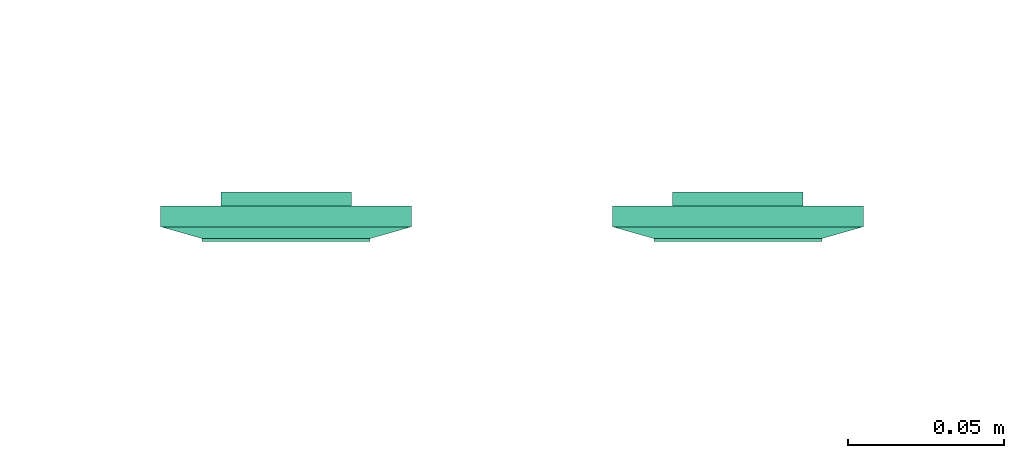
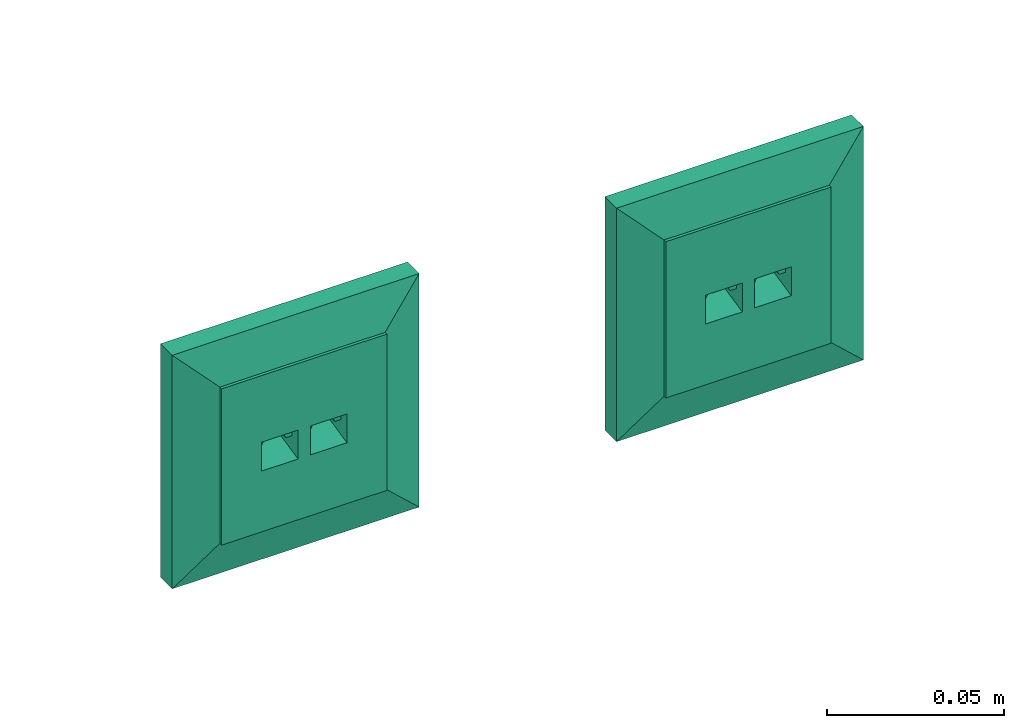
# One storey, part 51 of 146: 2 flow terminals.
"""IFC2X3 building model written with IfcOpenShell, lengths in metres."""

from ifc_helpers import new_model, entity, si_unit, converted_unit, derived_unit, direction, frame, origin, place, context, subcontext, project, spatial, faceted_brep, source, transform, mapped, type_object, type_shapes, element, save


model = new_model("IFC2X3")

# Units and contexts
model_context = context("Model", 3, precision=1e-05, world=origin(), true_north=direction((6.12303176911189e-17, 1.0)))
body_context = subcontext(model_context, "Body", "Model", "MODEL_VIEW")
ifc_project = project(units=[si_unit("LENGTHUNIT", "METRE"), si_unit("AREAUNIT", "SQUARE_METRE"), si_unit("VOLUMEUNIT", "CUBIC_METRE"), converted_unit("PLANEANGLEUNIT", "DEGREE", entity("IfcRatioMeasure", 0.0174532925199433), si_unit("PLANEANGLEUNIT", "RADIAN"), dimensions=[0, 0, 0, 0, 0, 0, 0]), si_unit("MASSUNIT", "GRAM", prefix="KILO"), derived_unit("MASSDENSITYUNIT", [(si_unit("MASSUNIT", "GRAM", prefix="KILO"), 1), (si_unit("LENGTHUNIT", "METRE"), -3)]), si_unit("TIMEUNIT", "SECOND"), si_unit("FREQUENCYUNIT", "HERTZ"), si_unit("THERMODYNAMICTEMPERATUREUNIT", "DEGREE_CELSIUS"), derived_unit("THERMALTRANSMITTANCEUNIT", [(si_unit("MASSUNIT", "GRAM", prefix="KILO"), 1), (si_unit("THERMODYNAMICTEMPERATUREUNIT", "KELVIN"), -1), (si_unit("TIMEUNIT", "SECOND"), -3)]), derived_unit("VOLUMETRICFLOWRATEUNIT", [(si_unit("LENGTHUNIT", "METRE"), 3), (si_unit("TIMEUNIT", "SECOND"), -1)]), si_unit("ELECTRICCURRENTUNIT", "AMPERE"), si_unit("ELECTRICVOLTAGEUNIT", "VOLT"), si_unit("POWERUNIT", "WATT"), si_unit("FORCEUNIT", "NEWTON"), si_unit("ILLUMINANCEUNIT", "LUX"), si_unit("LUMINOUSFLUXUNIT", "LUMEN"), si_unit("LUMINOUSINTENSITYUNIT", "CANDELA"), derived_unit("USERDEFINED", [(si_unit("MASSUNIT", "GRAM", prefix="KILO"), -1), (si_unit("LENGTHUNIT", "METRE"), -2), (si_unit("TIMEUNIT", "SECOND"), 3), (si_unit("LUMINOUSFLUXUNIT", "LUMEN"), 1)]), derived_unit("LINEARVELOCITYUNIT", [(si_unit("LENGTHUNIT", "METRE"), 1), (si_unit("TIMEUNIT", "SECOND"), -1)]), si_unit("PRESSUREUNIT", "PASCAL"), derived_unit("USERDEFINED", [(si_unit("LENGTHUNIT", "METRE"), -2), (si_unit("MASSUNIT", "GRAM", prefix="KILO"), 1), (si_unit("TIMEUNIT", "SECOND"), -2)])], contexts=[model_context])

# Site, building, storey
site_placement = place(None, origin())
site = spatial("IfcSite", under=ifc_project, at=site_placement, Name="Default", CompositionType="ELEMENT")
building_placement = place(site_placement, origin())
building = spatial("IfcBuilding", under=site, at=building_placement, CompositionType="ELEMENT")
storey_placement = place(building_placement, origin())
storey = spatial("IfcBuildingStorey", under=building, at=storey_placement, Name="S01", CompositionType="ELEMENT", Elevation=0.0)

# Flow terminals
electric_appliance_type = type_object("IfcElectricApplianceType", Name="RJ45 IP20", PredefinedType="NOTDEFINED")
shared_shape = source(origin(), body_context, "Body", "Brep", [
    faceted_brep([(0.00200000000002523, 0.0, 0.00799999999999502), (0.00400000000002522, 0.0, 0.00799999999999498), (0.00500000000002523, 0.00199999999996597, 0.00799999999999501), (0.0110000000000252, 0.00199999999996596, 0.00799999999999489), (0.0120000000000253, 0.0, 0.00799999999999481), (0.0140000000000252, 0.0, 0.00799999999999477), (0.0140000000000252, 0.00399999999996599, 0.00799999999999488), (0.00200000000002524, 0.00399999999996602, 0.00799999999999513), (0.00200000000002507, 0.0, 0.0), (0.00200000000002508, 0.00399999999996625, 0.0), (0.0140000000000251, 0.00399999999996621, 0.0), (0.0140000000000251, 0.0, 0.0), (0.0120000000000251, 0.0, 0.0), (0.0110000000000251, 0.00199999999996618, 0.0), (0.00500000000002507, 0.0019999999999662, 0.0), (0.00400000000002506, 0.0, 0.0)], [[[0, 1, 2, 3, 4, 5, 6, 7]], [[8, 9, 10, 11, 12, 13, 14, 15]], [[1, 0, 8, 15]], [[2, 1, 15, 14]], [[3, 2, 14, 13]], [[4, 3, 13, 12]], [[5, 4, 12, 11]], [[6, 5, 11, 10]], [[7, 6, 10, 9]], [[0, 7, 9, 8]]]),
    faceted_brep([(-0.0139999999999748, 0.0, 0.00799999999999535), (-0.0119999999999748, 0.0, 0.00799999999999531), (-0.0109999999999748, 0.00199999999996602, 0.00799999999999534), (-0.00499999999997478, 0.00199999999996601, 0.00799999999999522), (-0.0039999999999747, 0.0, 0.00799999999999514), (-0.00199999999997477, 0.0, 0.0079999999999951), (-0.00199999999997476, 0.00399999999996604, 0.00799999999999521), (-0.0139999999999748, 0.00399999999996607, 0.00799999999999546), (-0.0139999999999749, 0.0, 0.0), (-0.0139999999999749, 0.00399999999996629, 0.0), (-0.00199999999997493, 0.00399999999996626, 0.0), (-0.00199999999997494, 0.0, 0.0), (-0.00399999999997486, 0.0, 0.0), (-0.00499999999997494, 0.00199999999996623, 0.0), (-0.0109999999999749, 0.00199999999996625, 0.0), (-0.0119999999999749, 0.0, 0.0)], [[[0, 1, 2, 3, 4, 5, 6, 7]], [[8, 9, 10, 11, 12, 13, 14, 15]], [[1, 0, 8, 15]], [[2, 1, 15, 14]], [[3, 2, 14, 13]], [[4, 3, 13, 12]], [[5, 4, 12, 11]], [[6, 5, 11, 10]], [[7, 6, 10, 9]], [[0, 7, 9, 8]]]),
    faceted_brep([(0.0140000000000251, 0.00399999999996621, 0.0), (0.00200000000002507, 0.00399999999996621, 0.0), (0.00200000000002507, -0.00350000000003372, 0.0), (0.0140000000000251, -0.00350000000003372, 0.0), (0.0140000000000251, 0.00399999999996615, 0.00199999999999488), (0.00200000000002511, 0.00399999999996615, 0.00199999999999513), (0.00200000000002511, -0.00393859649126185, 0.00199999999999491), (0.0140000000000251, -0.00393859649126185, 0.00199999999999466), (0.0210000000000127, 0.0209999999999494, 0.00199999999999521), (-0.0209999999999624, 0.0209999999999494, 0.00199999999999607), (-0.0209999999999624, -0.0210000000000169, 0.00199999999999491), (0.0210000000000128, -0.0210000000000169, 0.00199999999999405), (-0.0139999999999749, 0.0039999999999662, 0.00199999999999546), (-0.0019999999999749, 0.0039999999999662, 0.00199999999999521), (-0.00199999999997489, -0.0039385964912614, 0.00199999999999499), (-0.0139999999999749, -0.00393859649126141, 0.00199999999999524), (0.0210000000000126, 0.0209999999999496, -0.00460000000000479), (0.0210000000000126, -0.0210000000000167, -0.00460000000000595), (-0.0209999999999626, -0.0210000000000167, -0.00460000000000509), (-0.0209999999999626, 0.0209999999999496, -0.00460000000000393), (-0.00199999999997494, 0.00399999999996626, 0.0), (-0.0139999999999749, 0.00399999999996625, 0.0), (-0.0139999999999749, -0.00350000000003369, 0.0), (-0.00199999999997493, -0.00350000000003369, 0.0)], [[[0, 1, 2, 3]], [[1, 0, 4, 5]], [[2, 1, 5, 6]], [[3, 2, 6, 7]], [[0, 3, 7, 4]], [[5, 4, 7, 6], [8, 9, 10, 11], [12, 13, 14, 15]], [[16, 17, 18, 19]], [[9, 8, 16, 19]], [[10, 9, 19, 18]], [[11, 10, 18, 17]], [[8, 11, 17, 16]], [[20, 21, 22, 23]], [[21, 20, 13, 12]], [[22, 21, 12, 15]], [[23, 22, 15, 14]], [[20, 23, 14, 13]]], outer=[[True], [True], [True], [True], [True], [False, True, False], [True], [True], [True], [True], [True], [True], [True], [True], [True], [True]]),
    faceted_brep([(0.0270000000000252, 0.026999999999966, 0.0113999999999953), (-0.0269999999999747, 0.026999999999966, 0.0113999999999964), (-0.0269999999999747, -0.0270000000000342, 0.0113999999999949), (0.0270000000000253, -0.0270000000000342, 0.0113999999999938), (0.0020000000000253, 0.00399999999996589, 0.0113999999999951), (0.0140000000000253, 0.00399999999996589, 0.0113999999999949), (0.0140000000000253, -0.00600000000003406, 0.0113999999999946), (0.0020000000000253, -0.00600000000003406, 0.0113999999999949), (-0.0139999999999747, 0.00399999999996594, 0.0113999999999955), (-0.00199999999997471, 0.00399999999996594, 0.0113999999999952), (-0.00199999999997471, -0.0060000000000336, 0.0113999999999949), (-0.0139999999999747, -0.00600000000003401, 0.0113999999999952), (0.0270000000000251, 0.0269999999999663, 0.00199999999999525), (0.0270000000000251, -0.0270000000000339, 0.00199999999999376), (-0.0269999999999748, -0.0270000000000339, 0.00199999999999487), (-0.0269999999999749, 0.0269999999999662, 0.00199999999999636), (0.0140000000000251, 0.00399999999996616, 0.00199999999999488), (0.00200000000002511, 0.00399999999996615, 0.00199999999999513), (0.00200000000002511, -0.00393859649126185, 0.00199999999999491), (0.0140000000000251, -0.00393859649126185, 0.00199999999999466), (-0.00199999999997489, 0.0039999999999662, 0.00199999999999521), (-0.0139999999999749, 0.0039999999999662, 0.00199999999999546), (-0.0139999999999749, -0.0039385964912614, 0.00199999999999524), (-0.00199999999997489, -0.0039385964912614, 0.00199999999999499)], [[[0, 1, 2, 3], [4, 5, 6, 7], [8, 9, 10, 11]], [[12, 13, 14, 15], [16, 17, 18, 19], [20, 21, 22, 23]], [[1, 0, 12, 15]], [[2, 1, 15, 14]], [[3, 2, 14, 13]], [[0, 3, 13, 12]], [[4, 17, 16, 5]], [[17, 4, 7, 18]], [[18, 7, 6, 19]], [[5, 16, 19, 6]], [[8, 21, 20, 9]], [[21, 8, 11, 22]], [[22, 11, 10, 23]], [[9, 20, 23, 10]]]),
    faceted_brep([(0.027000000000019, 0.0269999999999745, 0.00659999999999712), (-0.0269999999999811, 0.0269999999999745, 0.00659999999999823), (-0.026999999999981, -0.0270000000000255, 0.00659999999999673), (0.027000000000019, -0.0270000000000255, 0.00659999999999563), (0.040350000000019, 0.0403499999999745, 0.00659999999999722), (0.040350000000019, -0.0403500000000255, 0.00659999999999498), (-0.0403499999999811, -0.0403500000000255, 0.00659999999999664), (-0.0403499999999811, 0.0403499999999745, 0.00659999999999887), (-0.026999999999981, 0.0269999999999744, 0.0103999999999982), (0.027000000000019, 0.0269999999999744, 0.0103999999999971), (-0.026999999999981, -0.0270000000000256, 0.0103999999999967), (0.027000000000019, -0.0270000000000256, 0.0103999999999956)], [[[0, 1, 2, 3], [4, 5, 6, 7]], [[4, 7, 8, 9]], [[7, 6, 10, 8]], [[6, 5, 11, 10]], [[5, 4, 9, 11]], [[0, 9, 8, 1]], [[1, 8, 10, 2]], [[2, 10, 11, 3]], [[9, 0, 3, 11]]], outer=[[False, True], [True], [True], [True], [True], [True], [True], [True], [True]]),
    faceted_brep([(0.040350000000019, 0.0403499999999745, 0.00659999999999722), (-0.0403499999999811, 0.0403499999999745, 0.00659999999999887), (-0.0403499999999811, -0.0403500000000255, 0.00659999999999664), (0.040350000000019, -0.0403500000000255, 0.00659999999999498), (-0.0269999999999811, 0.0269999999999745, 0.00659999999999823), (0.0270000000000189, 0.0269999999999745, 0.00659999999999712), (0.0270000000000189, -0.0270000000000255, 0.00659999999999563), (-0.0269999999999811, -0.0270000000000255, 0.00659999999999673), (0.0403500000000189, 0.0403499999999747, 0.0), (0.0403500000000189, -0.0403500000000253, 0.0), (-0.0403499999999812, -0.0403500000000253, 0.0), (-0.0403499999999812, 0.0403499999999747, 0.0), (0.0270000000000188, 0.0269999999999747, 0.0), (-0.0269999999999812, 0.0269999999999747, 0.0), (-0.0269999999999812, -0.0270000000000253, 0.0), (0.0270000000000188, -0.0270000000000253, 0.0)], [[[0, 1, 2, 3], [4, 5, 6, 7]], [[8, 9, 10, 11], [12, 13, 14, 15]], [[1, 0, 8, 11]], [[2, 1, 11, 10]], [[3, 2, 10, 9]], [[0, 3, 9, 8]], [[12, 5, 4, 13]], [[13, 4, 7, 14]], [[14, 7, 6, 15]], [[5, 12, 15, 6]]]),
])
type_shapes(electric_appliance_type, [shared_shape])
for number, where, z_axis, x_axis in (
    (1, (51.4583114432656, -190.689444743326, 0.320000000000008), (0.0, -1.0, 0.0), (1.0, 0.0, 0.0)),
    (2, (51.3131523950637, -190.689444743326, 0.320000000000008), (0.0, -1.0, 0.0), (1.0, 0.0, 0.0)),
):
    element("IfcFlowTerminal", number, at=place(storey_placement, frame(where, z_axis=z_axis, x_axis=x_axis)), inside=storey, type_object=electric_appliance_type, Name="INT_Prise RJ45:RJ45 IP20", ObjectType="INT_Prise RJ45:RJ45 IP20", context=body_context, shape_type="MappedRepresentation", body=[
        mapped(shared_shape, transform((0.0, 0.0, 0.0), scale=1.0)),
    ])

save(model, "model.ifc")
